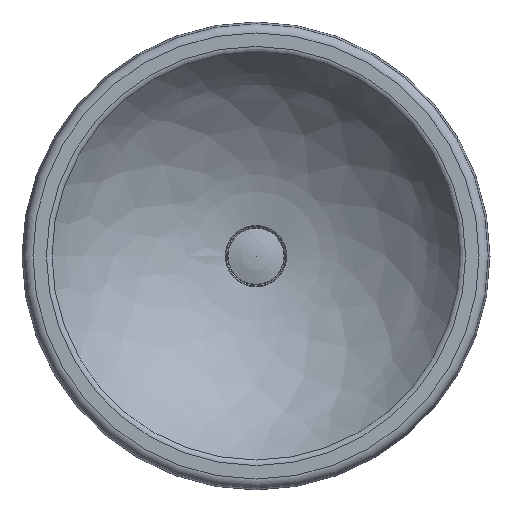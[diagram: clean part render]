
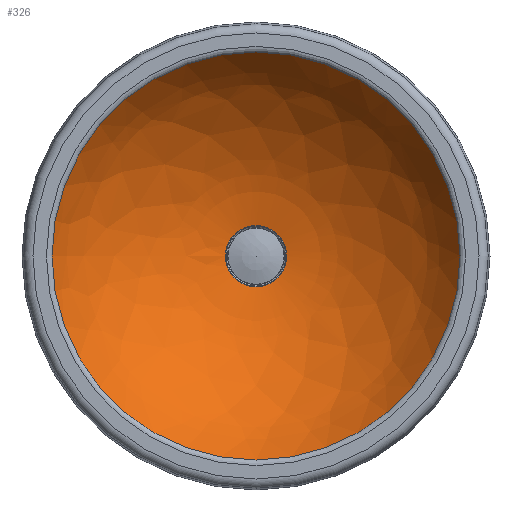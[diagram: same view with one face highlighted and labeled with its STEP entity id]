
A CAD part, top view. The second image highlights one B-rep face of the part: STEP entity #326.
In plain terms, the highlighted free-form (B-spline) face has degree [2, 2] with [3, 9] control points.
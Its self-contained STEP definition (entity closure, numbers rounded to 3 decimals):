
#234=CARTESIAN_POINT('',(32.733,-123.683,0.));
#235=VERTEX_POINT('',#234);
#236=CARTESIAN_POINT('',(0.,-123.683,0.0));
#237=DIRECTION('',(0.0,1.0,0.0));
#238=DIRECTION('',(-1.0,0.0,0.0));
#239=AXIS2_PLACEMENT_3D('',#236,#237,#238);
#240=CIRCLE('',#239,32.733);
#241=EDGE_CURVE('',#235,#235,#240,.T.);
#277=CARTESIAN_POINT('',(0.,-123.683,-32.733));
#278=CARTESIAN_POINT('',(0.,-106.149,-153.094));
#279=CARTESIAN_POINT('',(0.,-3.266,-217.973));
#280=CARTESIAN_POINT('',(-32.733,-123.683,-32.733));
#281=CARTESIAN_POINT('',(-153.094,-106.149,-153.094));
#282=CARTESIAN_POINT('',(-217.973,-3.266,-217.973));
#283=CARTESIAN_POINT('',(-32.733,-123.683,0.));
#284=CARTESIAN_POINT('',(-153.094,-106.149,0.));
#285=CARTESIAN_POINT('',(-217.973,-3.266,0.));
#286=CARTESIAN_POINT('',(-32.733,-123.683,32.733));
#287=CARTESIAN_POINT('',(-153.094,-106.149,153.094));
#288=CARTESIAN_POINT('',(-217.973,-3.266,217.973));
#289=CARTESIAN_POINT('',(0.,-123.683,32.733));
#290=CARTESIAN_POINT('',(0.,-106.149,153.094));
#291=CARTESIAN_POINT('',(0.,-3.266,217.973));
#292=CARTESIAN_POINT('',(32.733,-123.683,32.733));
#293=CARTESIAN_POINT('',(153.094,-106.149,153.094));
#294=CARTESIAN_POINT('',(217.973,-3.266,217.973));
#295=CARTESIAN_POINT('',(32.733,-123.683,0.));
#296=CARTESIAN_POINT('',(153.094,-106.149,0.));
#297=CARTESIAN_POINT('',(217.973,-3.266,0.));
#298=CARTESIAN_POINT('',(32.733,-123.683,-32.733));
#299=CARTESIAN_POINT('',(153.094,-106.149,-153.094));
#300=CARTESIAN_POINT('',(217.973,-3.266,-217.973));
#301=CARTESIAN_POINT('',(0.,-123.683,-32.733));
#302=CARTESIAN_POINT('',(0.,-106.149,-153.094));
#303=CARTESIAN_POINT('',(0.,-3.266,-217.973));
#311=(BOUNDED_SURFACE()B_SPLINE_SURFACE(2,2,((#277,#280,#283,#286,#289,#292,#295,#298,#301),(#278,#281,#284,#287,#290,#293,#296,#299,#302),(#279,#282,#285,#288,#291,#294,#297,#300,#303)),.UNSPECIFIED.,.F.,.T.,.U.)B_SPLINE_SURFACE_WITH_KNOTS((3,3),(3,2,2,2,3),(-1.426,-0.563),(0.0,1.571,3.142,4.712,6.283),.UNSPECIFIED.)GEOMETRIC_REPRESENTATION_ITEM()RATIONAL_B_SPLINE_SURFACE(((1.0,0.707,1.0,0.707,1.0,0.707,1.0,0.707,1.0),(0.908,0.642,0.908,0.642,0.908,0.642,0.908,0.642,0.908),(1.0,0.707,1.0,0.707,1.0,0.707,1.0,0.707,1.0)))REPRESENTATION_ITEM('')SURFACE());
#312=CARTESIAN_POINT('',(-217.973,-3.266,0.));
#313=VERTEX_POINT('',#312);
#314=CARTESIAN_POINT('',(0.,-3.266,0.0));
#315=DIRECTION('',(0.0,-1.0,0.0));
#316=DIRECTION('',(1.0,0.0,0.0));
#317=AXIS2_PLACEMENT_3D('',#314,#315,#316);
#318=CIRCLE('',#317,217.973);
#319=EDGE_CURVE('',#313,#313,#318,.T.);
#320=ORIENTED_EDGE('',*,*,#319,.F.);
#321=EDGE_LOOP('',(#320));
#322=FACE_OUTER_BOUND('',#321,.T.);
#323=ORIENTED_EDGE('',*,*,#241,.F.);
#324=EDGE_LOOP('',(#323));
#325=FACE_BOUND('',#324,.T.);
#326=ADVANCED_FACE('',(#322,#325),#311,.T.);
